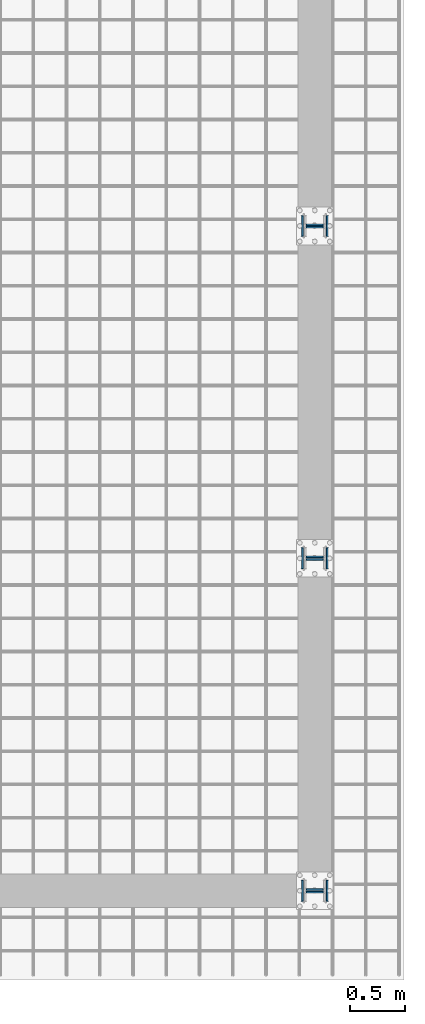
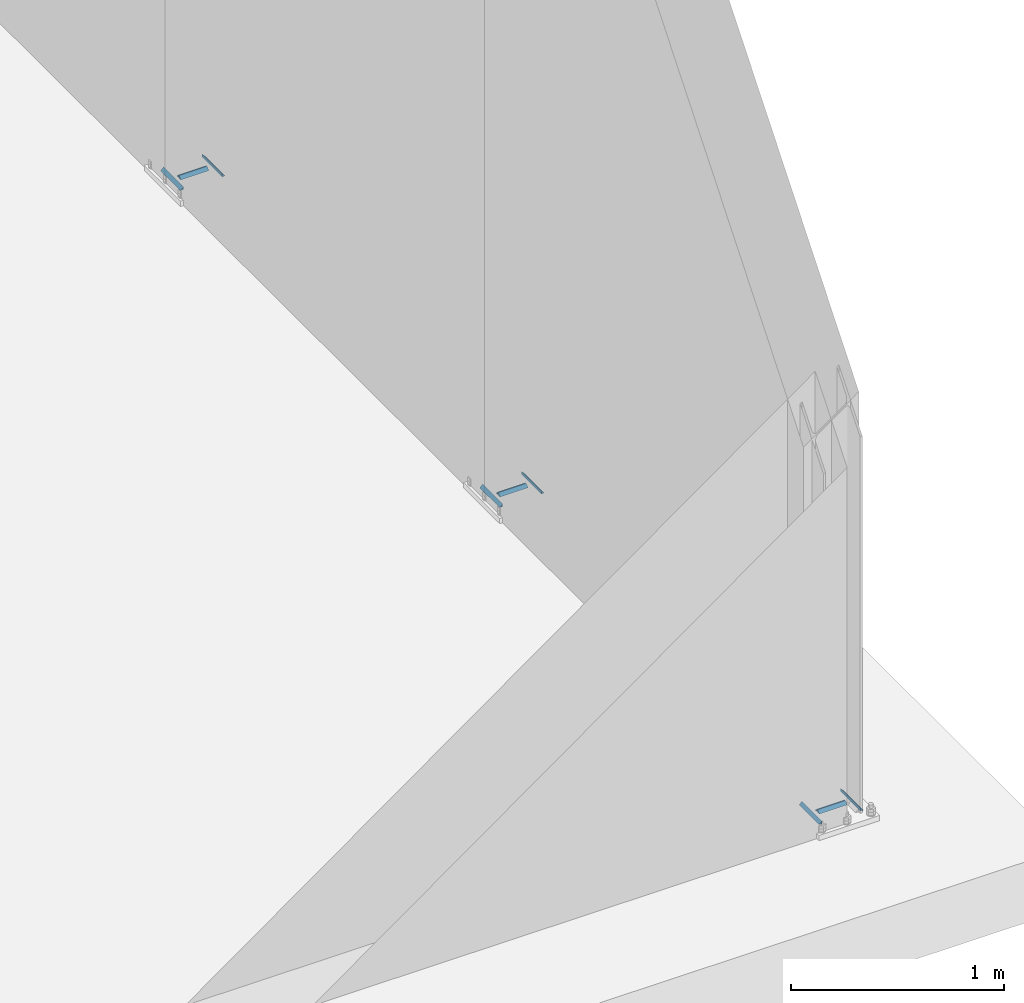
# One storey, part 8 of 29: 24 fasteners.
"""IFC4 building model written with IfcOpenShell, lengths in metres."""

from ifc_helpers import new_model, si_unit, frame, origin_with_axes, place, context, project, spatial, polyline, outline, extrude, type_object, element, save


model = new_model("IFC4")

# Units and contexts
model_context = context("Model", 3, precision=1e-05, world=origin_with_axes())
ifc_project = project(units=[si_unit("LENGTHUNIT", "METRE"), si_unit("AREAUNIT", "SQUARE_METRE"), si_unit("VOLUMEUNIT", "CUBIC_METRE"), si_unit("MASSUNIT", "GRAM", prefix="KILO"), si_unit("TIMEUNIT", "SECOND"), si_unit("PLANEANGLEUNIT", "RADIAN"), si_unit("SOLIDANGLEUNIT", "STERADIAN"), si_unit("THERMODYNAMICTEMPERATUREUNIT", "DEGREE_CELSIUS")], contexts=[model_context])

# Site, building, storey
placement_1 = place(None, origin_with_axes())
site = spatial("IfcSite", under=ifc_project, at=placement_1, Name="Italia", CompositionType="ELEMENT")
building = spatial("IfcBuilding", under=site, at=placement_1, Name="Capannone", CompositionType="ELEMENT")
storey = spatial("IfcBuildingStorey", under=building, at=placement_1, Name="Storey 0", CompositionType="ELEMENT", Elevation=0.0)

# Fasteners
fastener_type_1 = type_object("IfcFastenerType", Name="Collegamenti 0001_0101 0002_0102 0003_0103 0004_0104 0005_0105 0006_0106 0007_0107 0008_0108 0009_0109 0010_0110 0011_0111 0012_0112", PredefinedType="WELD")
placement_2 = place(placement_1, origin_with_axes())
fastener_1_placement = place(placement_2, origin_with_axes())
element("IfcFastener", 1, at=fastener_1_placement, inside=storey, type_object=fastener_type_1, Name="Collegamenti 0001_0101 0002_0102 0003_0103 0004_0104 0005_0105 0006_0106 0007_0107 0008_0108 0009_0109 0010_0110 0011_0111 0012_0112", context=model_context, shape_type="SweptSolid", body=[
    extrude(outline(polyline([(0.0, 0.0), (0.0156879, 0.0161734), (0.0156879, 0.0), (0.0, 0.0)])), frame((13.8794, 0.09405, 0.02995), z_axis=(0.0, -1.0, 0.0), x_axis=(1.0, 0.0, 0.0)), (0.0, 0.0, 1.0), 0.1881),
])
fastener_type_2 = type_object("IfcFastenerType", Name="Collegamenti 0001_0101 0002_0102 0003_0103 0004_0104 0005_0105 0006_0106 0007_0107 0008_0108 0009_0109 0010_0110 0011_0111 0012_0112", PredefinedType="WELD")
fastener_2_placement = place(placement_2, origin_with_axes())
element("IfcFastener", 2, at=fastener_2_placement, inside=storey, type_object=fastener_type_2, Name="Collegamenti 0001_0101 0002_0102 0003_0103 0004_0104 0005_0105 0006_0106 0007_0107 0008_0108 0009_0109 0010_0110 0011_0111 0012_0112", context=model_context, shape_type="SweptSolid", body=[
    extrude(outline(polyline([(0.0, 0.0), (0.0156879, 0.0161734), (0.0156879, 0.0), (0.0, 0.0)])), frame((14.1206, -0.09405, 0.02995), z_axis=(0.0, 1.0, 0.0), x_axis=(-1.0, 0.0, 0.0)), (0.0, 0.0, 1.0), 0.1881),
])
fastener_type_3 = type_object("IfcFastenerType", Name="Collegamenti 0001_0101 0002_0102 0003_0103 0004_0104 0005_0105 0006_0106 0007_0107 0008_0108 0009_0109 0010_0110 0011_0111 0012_0112", PredefinedType="WELD")
fastener_3_placement = place(placement_2, origin_with_axes())
element("IfcFastener", 3, at=fastener_3_placement, inside=storey, type_object=fastener_type_3, Name="Collegamenti 0001_0101 0002_0102 0003_0103 0004_0104 0005_0105 0006_0106 0007_0107 0008_0108 0009_0109 0010_0110 0011_0111 0012_0112", context=model_context, shape_type="SweptSolid", body=[
    extrude(outline(polyline([(0.0, 0.0), (0.0156882, 0.0161734), (0.0156882, 0.0), (0.0, 0.0)])), frame((14.076, 0.0191382, 0.02995), z_axis=(-1.0, 0.0, 0.0), x_axis=(0.0, -1.0, 0.0)), (0.0, 0.0, 1.0), 0.1521),
])
fastener_type_4 = type_object("IfcFastenerType", Name="Collegamenti 0001_0101 0002_0102 0003_0103 0004_0104 0005_0105 0006_0106 0007_0107 0008_0108 0009_0109 0010_0110 0011_0111 0012_0112", PredefinedType="WELD")
fastener_4_placement = place(placement_2, origin_with_axes())
element("IfcFastener", 4, at=fastener_4_placement, inside=storey, type_object=fastener_type_4, Name="Collegamenti 0001_0101 0002_0102 0003_0103 0004_0104 0005_0105 0006_0106 0007_0107 0008_0108 0009_0109 0010_0110 0011_0111 0012_0112", context=model_context, shape_type="SweptSolid", body=[
    extrude(outline(polyline([(0.0, 0.0), (0.0156882, 0.0161734), (0.0156882, 0.0), (0.0, 0.0)])), frame((13.924, -0.0191382, 0.02995), z_axis=(1.0, 0.0, 0.0), x_axis=(0.0, 1.0, 0.0)), (0.0, 0.0, 1.0), 0.1521),
])
fastener_type_5 = type_object("IfcFastenerType", Name="Collegamenti 0001_0101 0002_0102 0003_0103 0004_0104 0005_0105 0006_0106 0007_0107 0008_0108 0009_0109 0010_0110 0011_0111 0012_0112", PredefinedType="WELD")
fastener_5_placement = place(placement_2, origin_with_axes())
element("IfcFastener", 5, at=fastener_5_placement, inside=storey, type_object=fastener_type_5, Name="Collegamenti 0001_0101 0002_0102 0003_0103 0004_0104 0005_0105 0006_0106 0007_0107 0008_0108 0009_0109 0010_0110 0011_0111 0012_0112", context=model_context, shape_type="SweptSolid", body=[
    extrude(outline(polyline([(0.0, 0.0), (0.0156879, 0.0161734), (0.0156879, 0.0), (0.0, 0.0)])), frame((13.8794, 0.09405, 0.02995), z_axis=(0.0, -1.0, 0.0), x_axis=(1.0, 0.0, 0.0)), (0.0, 0.0, 1.0), 0.1881),
])
fastener_type_6 = type_object("IfcFastenerType", Name="Collegamenti 0001_0101 0002_0102 0003_0103 0004_0104 0005_0105 0006_0106 0007_0107 0008_0108 0009_0109 0010_0110 0011_0111 0012_0112", PredefinedType="WELD")
fastener_6_placement = place(placement_2, origin_with_axes())
element("IfcFastener", 6, at=fastener_6_placement, inside=storey, type_object=fastener_type_6, Name="Collegamenti 0001_0101 0002_0102 0003_0103 0004_0104 0005_0105 0006_0106 0007_0107 0008_0108 0009_0109 0010_0110 0011_0111 0012_0112", context=model_context, shape_type="SweptSolid", body=[
    extrude(outline(polyline([(0.0, 0.0), (0.0156879, 0.0161734), (0.0156879, 0.0), (0.0, 0.0)])), frame((14.1206, -0.09405, 0.02995), z_axis=(0.0, 1.0, 0.0), x_axis=(-1.0, 0.0, 0.0)), (0.0, 0.0, 1.0), 0.1881),
])
fastener_type_7 = type_object("IfcFastenerType", Name="Collegamenti 0001_0101 0002_0102 0003_0103 0004_0104 0005_0105 0006_0106 0007_0107 0008_0108 0009_0109 0010_0110 0011_0111 0012_0112", PredefinedType="WELD")
fastener_7_placement = place(placement_2, origin_with_axes())
element("IfcFastener", 7, at=fastener_7_placement, inside=storey, type_object=fastener_type_7, Name="Collegamenti 0001_0101 0002_0102 0003_0103 0004_0104 0005_0105 0006_0106 0007_0107 0008_0108 0009_0109 0010_0110 0011_0111 0012_0112", context=model_context, shape_type="SweptSolid", body=[
    extrude(outline(polyline([(0.0, 0.0), (0.0156882, 0.0161734), (0.0156882, 0.0), (0.0, 0.0)])), frame((14.076, 0.0191382, 0.02995), z_axis=(-1.0, 0.0, 0.0), x_axis=(0.0, -1.0, 0.0)), (0.0, 0.0, 1.0), 0.1521),
])
fastener_type_8 = type_object("IfcFastenerType", Name="Collegamenti 0001_0101 0002_0102 0003_0103 0004_0104 0005_0105 0006_0106 0007_0107 0008_0108 0009_0109 0010_0110 0011_0111 0012_0112", PredefinedType="WELD")
fastener_8_placement = place(placement_2, origin_with_axes())
element("IfcFastener", 8, at=fastener_8_placement, inside=storey, type_object=fastener_type_8, Name="Collegamenti 0001_0101 0002_0102 0003_0103 0004_0104 0005_0105 0006_0106 0007_0107 0008_0108 0009_0109 0010_0110 0011_0111 0012_0112", context=model_context, shape_type="SweptSolid", body=[
    extrude(outline(polyline([(0.0, 0.0), (0.0156882, 0.0161734), (0.0156882, 0.0), (0.0, 0.0)])), frame((13.924, -0.0191382, 0.02995), z_axis=(1.0, 0.0, 0.0), x_axis=(0.0, 1.0, 0.0)), (0.0, 0.0, 1.0), 0.1521),
])
fastener_type_9 = type_object("IfcFastenerType", Name="Collegamenti 0001_0101 0002_0102 0003_0103 0004_0104 0005_0105 0006_0106 0007_0107 0008_0108 0009_0109 0010_0110 0011_0111 0012_0112", PredefinedType="WELD")
fastener_9_placement = place(placement_2, origin_with_axes())
element("IfcFastener", 9, at=fastener_9_placement, inside=storey, type_object=fastener_type_9, Name="Collegamenti 0001_0101 0002_0102 0003_0103 0004_0104 0005_0105 0006_0106 0007_0107 0008_0108 0009_0109 0010_0110 0011_0111 0012_0112", context=model_context, shape_type="SweptSolid", body=[
    extrude(outline(polyline([(0.0, 0.0), (0.0156879, 0.0161734), (0.0156879, 0.0), (0.0, 0.0)])), frame((13.8794, 3.09405, 0.02995), z_axis=(0.0, -1.0, 0.0), x_axis=(1.0, 0.0, 0.0)), (0.0, 0.0, 1.0), 0.1881),
])
fastener_type_10 = type_object("IfcFastenerType", Name="Collegamenti 0001_0101 0002_0102 0003_0103 0004_0104 0005_0105 0006_0106 0007_0107 0008_0108 0009_0109 0010_0110 0011_0111 0012_0112", PredefinedType="WELD")
fastener_10_placement = place(placement_2, origin_with_axes())
element("IfcFastener", 10, at=fastener_10_placement, inside=storey, type_object=fastener_type_10, Name="Collegamenti 0001_0101 0002_0102 0003_0103 0004_0104 0005_0105 0006_0106 0007_0107 0008_0108 0009_0109 0010_0110 0011_0111 0012_0112", context=model_context, shape_type="SweptSolid", body=[
    extrude(outline(polyline([(0.0, 0.0), (0.0156879, 0.0161734), (0.0156879, 0.0), (0.0, 0.0)])), frame((14.1206, 2.90595, 0.02995), z_axis=(0.0, 1.0, 0.0), x_axis=(-1.0, 0.0, 0.0)), (0.0, 0.0, 1.0), 0.1881),
])
fastener_type_11 = type_object("IfcFastenerType", Name="Collegamenti 0001_0101 0002_0102 0003_0103 0004_0104 0005_0105 0006_0106 0007_0107 0008_0108 0009_0109 0010_0110 0011_0111 0012_0112", PredefinedType="WELD")
fastener_11_placement = place(placement_2, origin_with_axes())
element("IfcFastener", 11, at=fastener_11_placement, inside=storey, type_object=fastener_type_11, Name="Collegamenti 0001_0101 0002_0102 0003_0103 0004_0104 0005_0105 0006_0106 0007_0107 0008_0108 0009_0109 0010_0110 0011_0111 0012_0112", context=model_context, shape_type="SweptSolid", body=[
    extrude(outline(polyline([(0.0, 0.0), (0.0156882, 0.0161734), (0.0156882, 0.0), (0.0, 0.0)])), frame((14.076, 3.01914, 0.02995), z_axis=(-1.0, 0.0, 0.0), x_axis=(0.0, -1.0, 0.0)), (0.0, 0.0, 1.0), 0.1521),
])
fastener_type_12 = type_object("IfcFastenerType", Name="Collegamenti 0001_0101 0002_0102 0003_0103 0004_0104 0005_0105 0006_0106 0007_0107 0008_0108 0009_0109 0010_0110 0011_0111 0012_0112", PredefinedType="WELD")
fastener_12_placement = place(placement_2, origin_with_axes())
element("IfcFastener", 12, at=fastener_12_placement, inside=storey, type_object=fastener_type_12, Name="Collegamenti 0001_0101 0002_0102 0003_0103 0004_0104 0005_0105 0006_0106 0007_0107 0008_0108 0009_0109 0010_0110 0011_0111 0012_0112", context=model_context, shape_type="SweptSolid", body=[
    extrude(outline(polyline([(0.0, 0.0), (0.0156882, 0.0161734), (0.0156882, 0.0), (0.0, 0.0)])), frame((13.924, 2.98086, 0.02995), z_axis=(1.0, 0.0, 0.0), x_axis=(0.0, 1.0, 0.0)), (0.0, 0.0, 1.0), 0.1521),
])
fastener_type_13 = type_object("IfcFastenerType", Name="Collegamenti 0001_0101 0002_0102 0003_0103 0004_0104 0005_0105 0006_0106 0007_0107 0008_0108 0009_0109 0010_0110 0011_0111 0012_0112", PredefinedType="WELD")
fastener_13_placement = place(placement_2, origin_with_axes())
element("IfcFastener", 13, at=fastener_13_placement, inside=storey, type_object=fastener_type_13, Name="Collegamenti 0001_0101 0002_0102 0003_0103 0004_0104 0005_0105 0006_0106 0007_0107 0008_0108 0009_0109 0010_0110 0011_0111 0012_0112", context=model_context, shape_type="SweptSolid", body=[
    extrude(outline(polyline([(0.0, 0.0), (0.0156879, 0.0161734), (0.0156879, 0.0), (0.0, 0.0)])), frame((13.8794, 3.09405, 0.02995), z_axis=(0.0, -1.0, 0.0), x_axis=(1.0, 0.0, 0.0)), (0.0, 0.0, 1.0), 0.1881),
])
fastener_type_14 = type_object("IfcFastenerType", Name="Collegamenti 0001_0101 0002_0102 0003_0103 0004_0104 0005_0105 0006_0106 0007_0107 0008_0108 0009_0109 0010_0110 0011_0111 0012_0112", PredefinedType="WELD")
fastener_14_placement = place(placement_2, origin_with_axes())
element("IfcFastener", 14, at=fastener_14_placement, inside=storey, type_object=fastener_type_14, Name="Collegamenti 0001_0101 0002_0102 0003_0103 0004_0104 0005_0105 0006_0106 0007_0107 0008_0108 0009_0109 0010_0110 0011_0111 0012_0112", context=model_context, shape_type="SweptSolid", body=[
    extrude(outline(polyline([(0.0, 0.0), (0.0156879, 0.0161734), (0.0156879, 0.0), (0.0, 0.0)])), frame((14.1206, 2.90595, 0.02995), z_axis=(0.0, 1.0, 0.0), x_axis=(-1.0, 0.0, 0.0)), (0.0, 0.0, 1.0), 0.1881),
])
fastener_type_15 = type_object("IfcFastenerType", Name="Collegamenti 0001_0101 0002_0102 0003_0103 0004_0104 0005_0105 0006_0106 0007_0107 0008_0108 0009_0109 0010_0110 0011_0111 0012_0112", PredefinedType="WELD")
fastener_15_placement = place(placement_2, origin_with_axes())
element("IfcFastener", 15, at=fastener_15_placement, inside=storey, type_object=fastener_type_15, Name="Collegamenti 0001_0101 0002_0102 0003_0103 0004_0104 0005_0105 0006_0106 0007_0107 0008_0108 0009_0109 0010_0110 0011_0111 0012_0112", context=model_context, shape_type="SweptSolid", body=[
    extrude(outline(polyline([(0.0, 0.0), (0.0156882, 0.0161734), (0.0156882, 0.0), (0.0, 0.0)])), frame((14.076, 3.01914, 0.02995), z_axis=(-1.0, 0.0, 0.0), x_axis=(0.0, -1.0, 0.0)), (0.0, 0.0, 1.0), 0.1521),
])
fastener_type_16 = type_object("IfcFastenerType", Name="Collegamenti 0001_0101 0002_0102 0003_0103 0004_0104 0005_0105 0006_0106 0007_0107 0008_0108 0009_0109 0010_0110 0011_0111 0012_0112", PredefinedType="WELD")
fastener_16_placement = place(placement_2, origin_with_axes())
element("IfcFastener", 16, at=fastener_16_placement, inside=storey, type_object=fastener_type_16, Name="Collegamenti 0001_0101 0002_0102 0003_0103 0004_0104 0005_0105 0006_0106 0007_0107 0008_0108 0009_0109 0010_0110 0011_0111 0012_0112", context=model_context, shape_type="SweptSolid", body=[
    extrude(outline(polyline([(0.0, 0.0), (0.0156882, 0.0161734), (0.0156882, 0.0), (0.0, 0.0)])), frame((13.924, 2.98086, 0.02995), z_axis=(1.0, 0.0, 0.0), x_axis=(0.0, 1.0, 0.0)), (0.0, 0.0, 1.0), 0.1521),
])
fastener_type_17 = type_object("IfcFastenerType", Name="Collegamenti 0001_0101 0002_0102 0003_0103 0004_0104 0005_0105 0006_0106 0007_0107 0008_0108 0009_0109 0010_0110 0011_0111 0012_0112", PredefinedType="WELD")
fastener_17_placement = place(placement_2, origin_with_axes())
element("IfcFastener", 17, at=fastener_17_placement, inside=storey, type_object=fastener_type_17, Name="Collegamenti 0001_0101 0002_0102 0003_0103 0004_0104 0005_0105 0006_0106 0007_0107 0008_0108 0009_0109 0010_0110 0011_0111 0012_0112", context=model_context, shape_type="SweptSolid", body=[
    extrude(outline(polyline([(0.0, 0.0), (0.0156879, 0.0161734), (0.0156879, 0.0), (0.0, 0.0)])), frame((13.8794, 6.09405, 0.02995), z_axis=(0.0, -1.0, 0.0), x_axis=(1.0, 0.0, 0.0)), (0.0, 0.0, 1.0), 0.1881),
])
fastener_type_18 = type_object("IfcFastenerType", Name="Collegamenti 0001_0101 0002_0102 0003_0103 0004_0104 0005_0105 0006_0106 0007_0107 0008_0108 0009_0109 0010_0110 0011_0111 0012_0112", PredefinedType="WELD")
fastener_18_placement = place(placement_2, origin_with_axes())
element("IfcFastener", 18, at=fastener_18_placement, inside=storey, type_object=fastener_type_18, Name="Collegamenti 0001_0101 0002_0102 0003_0103 0004_0104 0005_0105 0006_0106 0007_0107 0008_0108 0009_0109 0010_0110 0011_0111 0012_0112", context=model_context, shape_type="SweptSolid", body=[
    extrude(outline(polyline([(0.0, 0.0), (0.0156879, 0.0161734), (0.0156879, 0.0), (0.0, 0.0)])), frame((14.1206, 5.90595, 0.02995), z_axis=(0.0, 1.0, 0.0), x_axis=(-1.0, 0.0, 0.0)), (0.0, 0.0, 1.0), 0.1881),
])
fastener_type_19 = type_object("IfcFastenerType", Name="Collegamenti 0001_0101 0002_0102 0003_0103 0004_0104 0005_0105 0006_0106 0007_0107 0008_0108 0009_0109 0010_0110 0011_0111 0012_0112", PredefinedType="WELD")
fastener_19_placement = place(placement_2, origin_with_axes())
element("IfcFastener", 19, at=fastener_19_placement, inside=storey, type_object=fastener_type_19, Name="Collegamenti 0001_0101 0002_0102 0003_0103 0004_0104 0005_0105 0006_0106 0007_0107 0008_0108 0009_0109 0010_0110 0011_0111 0012_0112", context=model_context, shape_type="SweptSolid", body=[
    extrude(outline(polyline([(0.0, 0.0), (0.0156884, 0.0161734), (0.0156884, 0.0), (0.0, 0.0)])), frame((14.076, 6.01914, 0.02995), z_axis=(-1.0, 0.0, 0.0), x_axis=(0.0, -1.0, 0.0)), (0.0, 0.0, 1.0), 0.1521),
])
fastener_type_20 = type_object("IfcFastenerType", Name="Collegamenti 0001_0101 0002_0102 0003_0103 0004_0104 0005_0105 0006_0106 0007_0107 0008_0108 0009_0109 0010_0110 0011_0111 0012_0112", PredefinedType="WELD")
fastener_20_placement = place(placement_2, origin_with_axes())
element("IfcFastener", 20, at=fastener_20_placement, inside=storey, type_object=fastener_type_20, Name="Collegamenti 0001_0101 0002_0102 0003_0103 0004_0104 0005_0105 0006_0106 0007_0107 0008_0108 0009_0109 0010_0110 0011_0111 0012_0112", context=model_context, shape_type="SweptSolid", body=[
    extrude(outline(polyline([(0.0, 0.0), (0.0156884, 0.0161734), (0.0156884, 0.0), (0.0, 0.0)])), frame((13.924, 5.98086, 0.02995), z_axis=(1.0, 0.0, 0.0), x_axis=(0.0, 1.0, 0.0)), (0.0, 0.0, 1.0), 0.1521),
])
fastener_type_21 = type_object("IfcFastenerType", Name="Collegamenti 0001_0101 0002_0102 0003_0103 0004_0104 0005_0105 0006_0106 0007_0107 0008_0108 0009_0109 0010_0110 0011_0111 0012_0112", PredefinedType="WELD")
fastener_21_placement = place(placement_2, origin_with_axes())
element("IfcFastener", 21, at=fastener_21_placement, inside=storey, type_object=fastener_type_21, Name="Collegamenti 0001_0101 0002_0102 0003_0103 0004_0104 0005_0105 0006_0106 0007_0107 0008_0108 0009_0109 0010_0110 0011_0111 0012_0112", context=model_context, shape_type="SweptSolid", body=[
    extrude(outline(polyline([(0.0, 0.0), (0.0156879, 0.0161734), (0.0156879, 0.0), (0.0, 0.0)])), frame((13.8794, 6.09405, 0.02995), z_axis=(0.0, -1.0, 0.0), x_axis=(1.0, 0.0, 0.0)), (0.0, 0.0, 1.0), 0.1881),
])
fastener_type_22 = type_object("IfcFastenerType", Name="Collegamenti 0001_0101 0002_0102 0003_0103 0004_0104 0005_0105 0006_0106 0007_0107 0008_0108 0009_0109 0010_0110 0011_0111 0012_0112", PredefinedType="WELD")
fastener_22_placement = place(placement_2, origin_with_axes())
element("IfcFastener", 22, at=fastener_22_placement, inside=storey, type_object=fastener_type_22, Name="Collegamenti 0001_0101 0002_0102 0003_0103 0004_0104 0005_0105 0006_0106 0007_0107 0008_0108 0009_0109 0010_0110 0011_0111 0012_0112", context=model_context, shape_type="SweptSolid", body=[
    extrude(outline(polyline([(0.0, 0.0), (0.0156879, 0.0161734), (0.0156879, 0.0), (0.0, 0.0)])), frame((14.1206, 5.90595, 0.02995), z_axis=(0.0, 1.0, 0.0), x_axis=(-1.0, 0.0, 0.0)), (0.0, 0.0, 1.0), 0.1881),
])
fastener_type_23 = type_object("IfcFastenerType", Name="Collegamenti 0001_0101 0002_0102 0003_0103 0004_0104 0005_0105 0006_0106 0007_0107 0008_0108 0009_0109 0010_0110 0011_0111 0012_0112", PredefinedType="WELD")
fastener_23_placement = place(placement_2, origin_with_axes())
element("IfcFastener", 23, at=fastener_23_placement, inside=storey, type_object=fastener_type_23, Name="Collegamenti 0001_0101 0002_0102 0003_0103 0004_0104 0005_0105 0006_0106 0007_0107 0008_0108 0009_0109 0010_0110 0011_0111 0012_0112", context=model_context, shape_type="SweptSolid", body=[
    extrude(outline(polyline([(0.0, 0.0), (0.0156884, 0.0161734), (0.0156884, 0.0), (0.0, 0.0)])), frame((14.076, 6.01914, 0.02995), z_axis=(-1.0, 0.0, 0.0), x_axis=(0.0, -1.0, 0.0)), (0.0, 0.0, 1.0), 0.1521),
])
fastener_type_24 = type_object("IfcFastenerType", Name="Collegamenti 0001_0101 0002_0102 0003_0103 0004_0104 0005_0105 0006_0106 0007_0107 0008_0108 0009_0109 0010_0110 0011_0111 0012_0112", PredefinedType="WELD")
fastener_24_placement = place(placement_2, origin_with_axes())
element("IfcFastener", 24, at=fastener_24_placement, inside=storey, type_object=fastener_type_24, Name="Collegamenti 0001_0101 0002_0102 0003_0103 0004_0104 0005_0105 0006_0106 0007_0107 0008_0108 0009_0109 0010_0110 0011_0111 0012_0112", context=model_context, shape_type="SweptSolid", body=[
    extrude(outline(polyline([(0.0, 0.0), (0.0156884, 0.0161734), (0.0156884, 0.0), (0.0, 0.0)])), frame((13.924, 5.98086, 0.02995), z_axis=(1.0, 0.0, 0.0), x_axis=(0.0, 1.0, 0.0)), (0.0, 0.0, 1.0), 0.1521),
])

save(model, "model.ifc")
